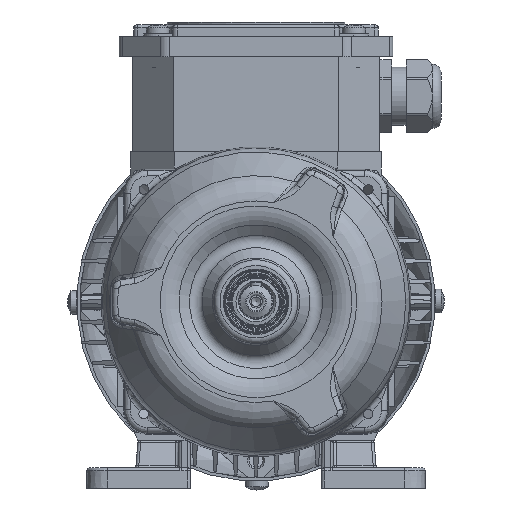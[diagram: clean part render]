
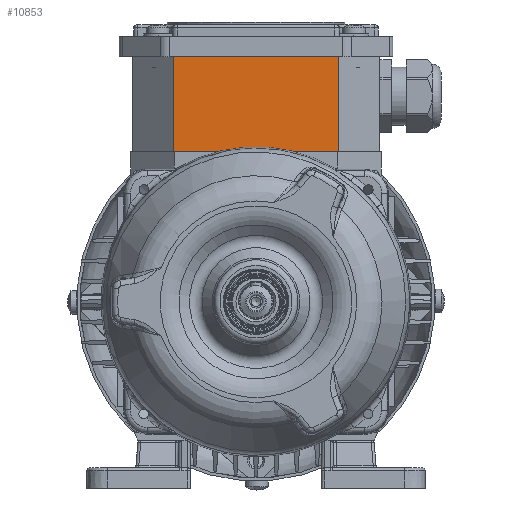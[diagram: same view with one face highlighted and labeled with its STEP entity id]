
A CAD part, front view. The second image highlights one B-rep face of the part: STEP entity #10853.
In plain terms, the highlighted planar face has unit normal (0, -1, 0).
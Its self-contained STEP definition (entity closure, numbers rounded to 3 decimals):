
#10853=ADVANCED_FACE('',(#14578),#12433,.T.);
#12433=PLANE('',#58110);
#14578=FACE_OUTER_BOUND('',#17880,.T.);
#17880=EDGE_LOOP('',(#30391,#30392,#30393,#30394));
#30391=ORIENTED_EDGE('',*,*,#43324,.T.);
#30392=ORIENTED_EDGE('',*,*,#43325,.T.);
#30393=ORIENTED_EDGE('',*,*,#43326,.F.);
#30394=ORIENTED_EDGE('',*,*,#43289,.F.);
#36691=VERTEX_POINT('',#96488);
#36692=VERTEX_POINT('',#96490);
#36716=VERTEX_POINT('',#96558);
#36717=VERTEX_POINT('',#96562);
#43289=EDGE_CURVE('',#36691,#36692,#47069,.T.);
#43324=EDGE_CURVE('',#36691,#36716,#47103,.T.);
#43325=EDGE_CURVE('',#36716,#36717,#47104,.T.);
#43326=EDGE_CURVE('',#36692,#36717,#47105,.T.);
#47069=LINE('',#96489,#50308);
#47103=LINE('',#96559,#50342);
#47104=LINE('',#96561,#50343);
#47105=LINE('',#96563,#50344);
#50308=VECTOR('',#70122,1.);
#50342=VECTOR('',#70178,1.);
#50343=VECTOR('',#70181,1.);
#50344=VECTOR('',#70182,1.);
#58110=AXIS2_PLACEMENT_3D('',#96564,#70183,#70184);
#70122=DIRECTION('',(-1.,0.,0.));
#70178=DIRECTION('',(0.,0.,1.));
#70181=DIRECTION('',(-1.,0.,0.));
#70182=DIRECTION('',(0.,0.,1.));
#70183=DIRECTION('',(0.,-1.,0.));
#70184=DIRECTION('',(1.,0.,0.));
#96488=CARTESIAN_POINT('',(28.211,6.,51.5));
#96489=CARTESIAN_POINT('',(28.211,6.,51.5));
#96490=CARTESIAN_POINT('',(-28.211,6.,51.5));
#96558=CARTESIAN_POINT('',(28.211,6.,86.));
#96559=CARTESIAN_POINT('',(28.211,6.,87.));
#96561=CARTESIAN_POINT('',(28.211,6.,86.));
#96562=CARTESIAN_POINT('',(-28.211,6.,86.));
#96563=CARTESIAN_POINT('',(-28.211,6.,87.));
#96564=CARTESIAN_POINT('',(28.211,6.,87.));
